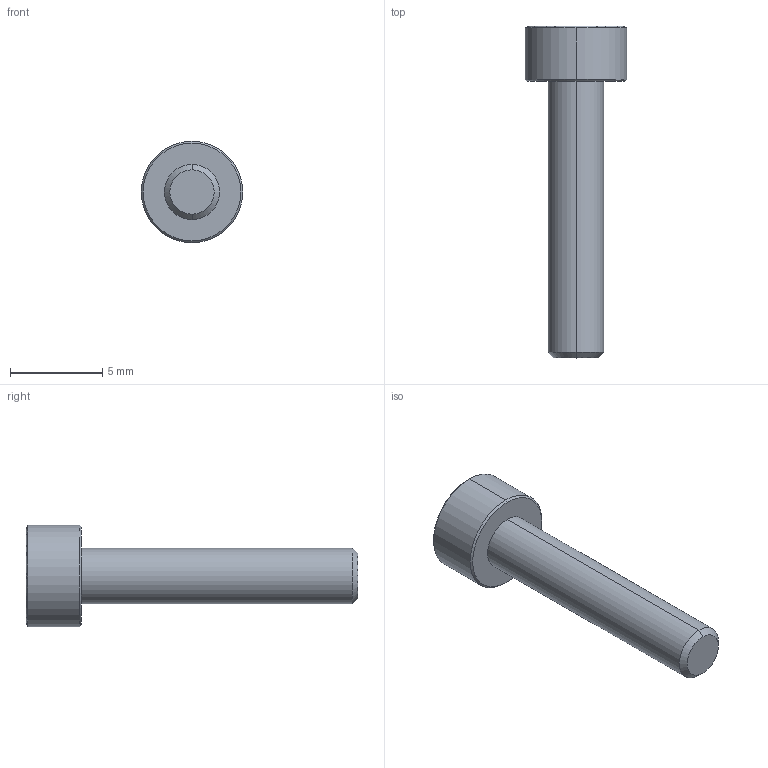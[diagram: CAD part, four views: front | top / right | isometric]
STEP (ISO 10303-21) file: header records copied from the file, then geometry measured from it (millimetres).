
FILE_DESCRIPTION (( 'STEP AP214' ), '1' );
FILE_NAME ('vite M3 x 15.STEP', '2016-02-27T15:08:10', ( '' ), ( '' ), 'SwSTEP 2.0', 'SolidWorks 2012', '' );
FILE_SCHEMA (( 'AUTOMOTIVE_DESIGN' ));
Length unit declared in the file: millimetre
Products named in the file (1): vite M3 x 15
Bounding box: 5.5 x 18 x 5.5 mm (x, y, z)
Volume: 165.9 mm3; surface area: 254.2 mm2
Topology: 1 solids, 1 shells, 20 faces, 42 edges, 26 vertices
Faces by surface type: plane 10, cone 6, cylinder 4
Entity records: 566 total; most frequent: DIRECTION 98, CARTESIAN_POINT 89, ORIENTED_EDGE 84, EDGE_CURVE 42, AXIS2_PLACEMENT_3D 35, VECTOR 28, LINE 28, VERTEX_POINT 26
